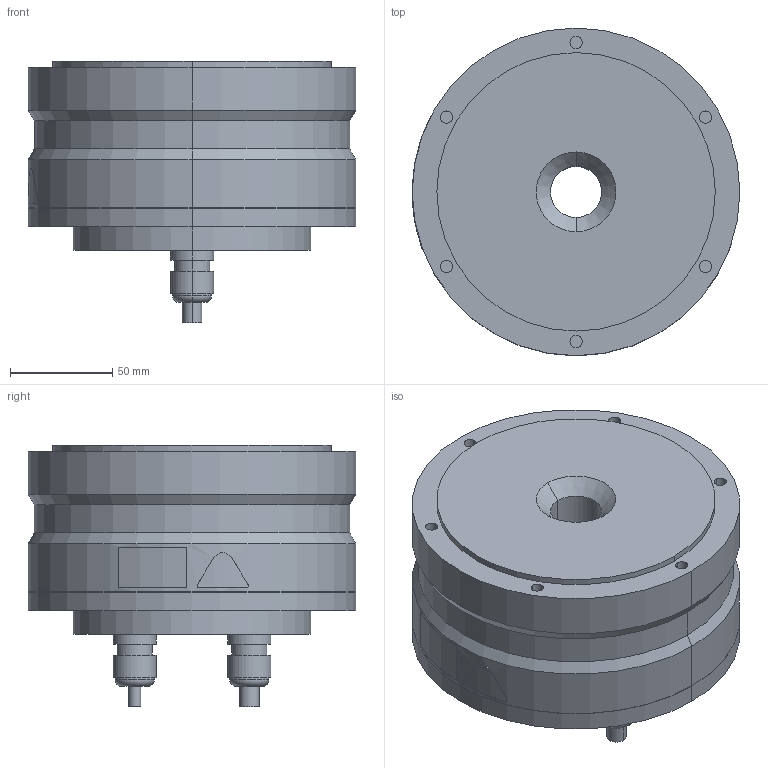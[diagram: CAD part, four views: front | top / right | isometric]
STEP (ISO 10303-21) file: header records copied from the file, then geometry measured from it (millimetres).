
FILE_DESCRIPTION (( 'STEP AP203' ), '1' );
FILE_NAME ('sgm7d_08g_c5_.STEP', '2016-02-22T09:09:56', ( '' ), ( '' ), 'SwSTEP 2.0', 'SolidWorks 2010', '' );
FILE_SCHEMA (( 'CONFIG_CONTROL_DESIGN' ));
Length unit declared in the file: millimetre
Products named in the file (1): sgm7d_08g_c5_
Bounding box: 160.06 x 160 x 127.9 mm (x, y, z)
Volume: 1668685.9 mm3; surface area: 100794.6 mm2
Topology: 1 solids, 1 shells, 211 faces, 469 edges, 308 vertices
Faces by surface type: cylinder 122, plane 74, cone 6, bspline 5, torus 4
Entity records: 6268 total; most frequent: CARTESIAN_POINT 1284, DIRECTION 1123, ORIENTED_EDGE 938, EDGE_CURVE 469, AXIS2_PLACEMENT_3D 463, VERTEX_POINT 308, EDGE_LOOP 261, CIRCLE 256
